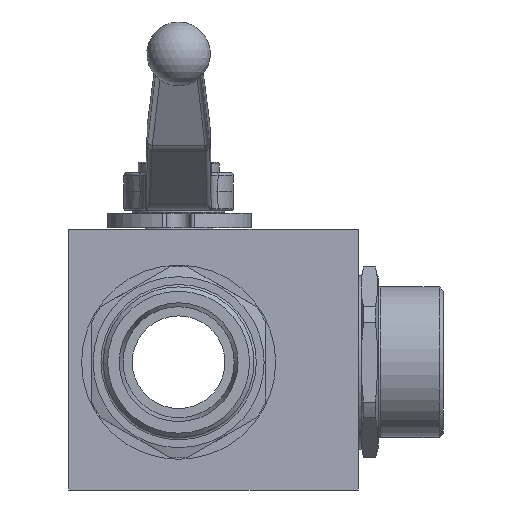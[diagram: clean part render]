
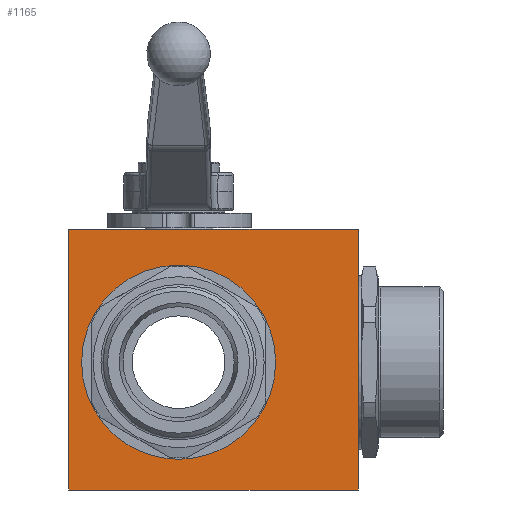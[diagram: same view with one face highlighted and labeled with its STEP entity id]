
A CAD part, front view. The second image highlights one B-rep face of the part: STEP entity #1165.
In plain terms, the highlighted planar face has unit normal (0, -1, 0).
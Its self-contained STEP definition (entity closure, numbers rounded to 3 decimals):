
#1165 = ADVANCED_FACE( '', ( #2335, #2336 ), #2337, .T. );
#2335 = FACE_OUTER_BOUND( '', #4133, .T. );
#2336 = FACE_BOUND( '', #4134, .T. );
#2337 = PLANE( '', #4135 );
#4133 = EDGE_LOOP( '', ( #6868, #6869, #6870, #6871 ) );
#4134 = EDGE_LOOP( '', ( #6872 ) );
#4135 = AXIS2_PLACEMENT_3D( '', #6873, #6874, #6875 );
#6868 = ORIENTED_EDGE( '', *, *, #7963, .T. );
#6869 = ORIENTED_EDGE( '', *, *, #8376, .F. );
#6870 = ORIENTED_EDGE( '', *, *, #7661, .F. );
#6871 = ORIENTED_EDGE( '', *, *, #7981, .T. );
#6872 = ORIENTED_EDGE( '', *, *, #8100, .T. );
#6873 = CARTESIAN_POINT( '', ( -38., -41., 45.9 ) );
#6874 = DIRECTION( '', ( 0., -1., 0. ) );
#6875 = DIRECTION( '', ( 0., 0., -1. ) );
#7661 = EDGE_CURVE( '', #9028, #9029, #9030, .T. );
#7963 = EDGE_CURVE( '', #9496, #9501, #9503, .T. );
#7981 = EDGE_CURVE( '', #9028, #9496, #9527, .T. );
#8100 = EDGE_CURVE( '', #9689, #9689, #9690, .T. );
#8376 = EDGE_CURVE( '', #9029, #9501, #10020, .T. );
#9028 = VERTEX_POINT( '', #11278 );
#9029 = VERTEX_POINT( '', #11279 );
#9030 = LINE( '', #11280, #11281 );
#9496 = VERTEX_POINT( '', #12501 );
#9501 = VERTEX_POINT( '', #12508 );
#9503 = LINE( '', #12511, #12512 );
#9527 = LINE( '', #12567, #12568 );
#9689 = VERTEX_POINT( '', #12899 );
#9690 = CIRCLE( '', #12900, 33.5 );
#10020 = LINE( '', #13729, #13730 );
#11278 = CARTESIAN_POINT( '', ( -38., -41., 45.9 ) );
#11279 = CARTESIAN_POINT( '', ( 62., -41., 45.9 ) );
#11280 = CARTESIAN_POINT( '', ( -38., -41., 45.9 ) );
#11281 = VECTOR( '', #14275, 1000. );
#12501 = CARTESIAN_POINT( '', ( -38., -41., -44.1 ) );
#12508 = CARTESIAN_POINT( '', ( 62., -41., -44.1 ) );
#12511 = CARTESIAN_POINT( '', ( -38., -41., -44.1 ) );
#12512 = VECTOR( '', #14673, 1000. );
#12567 = CARTESIAN_POINT( '', ( -38., -41., 45.9 ) );
#12568 = VECTOR( '', #14686, 1000. );
#12899 = CARTESIAN_POINT( '', ( 33.5, -41., 0. ) );
#12900 = AXIS2_PLACEMENT_3D( '', #14831, #14832, #14833 );
#13729 = CARTESIAN_POINT( '', ( 62., -41., 45.9 ) );
#13730 = VECTOR( '', #15110, 1000. );
#14275 = DIRECTION( '', ( 1., 0., 0. ) );
#14673 = DIRECTION( '', ( 1., 0., 0. ) );
#14686 = DIRECTION( '', ( 0., 0., -1. ) );
#14831 = CARTESIAN_POINT( '', ( 0., -41., 0. ) );
#14832 = DIRECTION( '', ( 0., 1., 0. ) );
#14833 = DIRECTION( '', ( 1., 0., 0. ) );
#15110 = DIRECTION( '', ( 0., 0., -1. ) );
